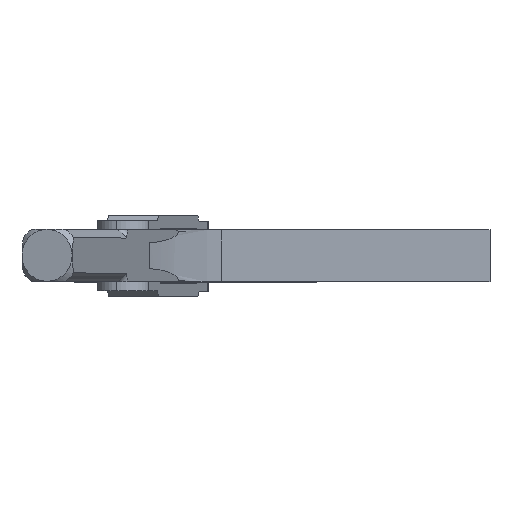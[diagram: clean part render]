
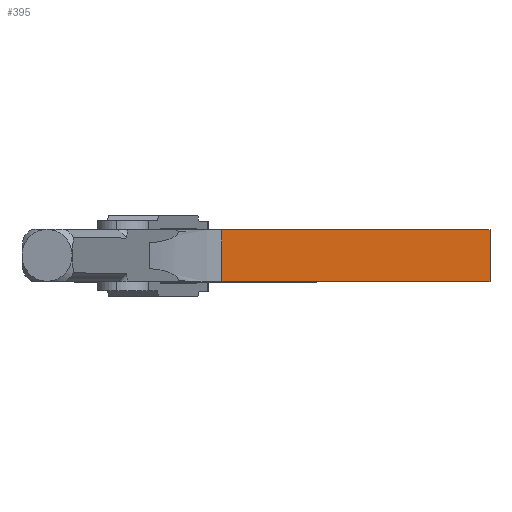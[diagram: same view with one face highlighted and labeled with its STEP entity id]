
A CAD part, top view. The second image highlights one B-rep face of the part: STEP entity #395.
In plain terms, the highlighted planar face has unit normal (0, 0, 1).
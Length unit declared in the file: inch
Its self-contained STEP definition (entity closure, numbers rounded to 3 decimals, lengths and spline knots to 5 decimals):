
#213=PLANE('',#2425);
#395=ADVANCED_FACE('',(#549),#213,.T.);
#549=FACE_OUTER_BOUND('',#717,.T.);
#717=EDGE_LOOP('',(#1301,#1302,#1303,#1304));
#1301=ORIENTED_EDGE('',*,*,#1855,.F.);
#1302=ORIENTED_EDGE('',*,*,#1856,.T.);
#1303=ORIENTED_EDGE('',*,*,#1857,.T.);
#1304=ORIENTED_EDGE('',*,*,#1824,.F.);
#1562=VERTEX_POINT('',#3621);
#1563=VERTEX_POINT('',#3623);
#1588=VERTEX_POINT('',#3711);
#1589=VERTEX_POINT('',#3715);
#1824=EDGE_CURVE('',#1562,#1563,#2031,.T.);
#1855=EDGE_CURVE('',#1588,#1562,#2049,.T.);
#1856=EDGE_CURVE('',#1588,#1589,#2050,.T.);
#1857=EDGE_CURVE('',#1589,#1563,#2051,.T.);
#2031=LINE('',#3622,#2207);
#2049=LINE('',#3712,#2225);
#2050=LINE('',#3714,#2226);
#2051=LINE('',#3716,#2227);
#2207=VECTOR('',#2917,1.);
#2225=VECTOR('',#2963,1.);
#2226=VECTOR('',#2966,1.);
#2227=VECTOR('',#2967,1.);
#2425=AXIS2_PLACEMENT_3D('',#3717,#2968,#2969);
#2917=DIRECTION('',(1.,0.,0.));
#2963=DIRECTION('',(0.,1.,0.));
#2966=DIRECTION('',(1.,0.,0.));
#2967=DIRECTION('',(0.,1.,0.));
#2968=DIRECTION('',(0.,0.,1.));
#2969=DIRECTION('',(0.,-1.,0.));
#3621=CARTESIAN_POINT('',(2.125,0.375,3.8125));
#3622=CARTESIAN_POINT('',(2.125,0.375,3.8125));
#3623=CARTESIAN_POINT('',(6.,0.375,3.8125));
#3711=CARTESIAN_POINT('',(2.125,-0.375,3.8125));
#3712=CARTESIAN_POINT('',(2.125,-0.375,3.8125));
#3714=CARTESIAN_POINT('',(2.125,-0.375,3.8125));
#3715=CARTESIAN_POINT('',(6.,-0.375,3.8125));
#3716=CARTESIAN_POINT('',(6.,-0.375,3.8125));
#3717=CARTESIAN_POINT('',(6.,0.375,3.8125));
